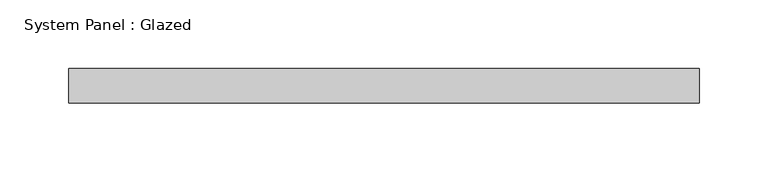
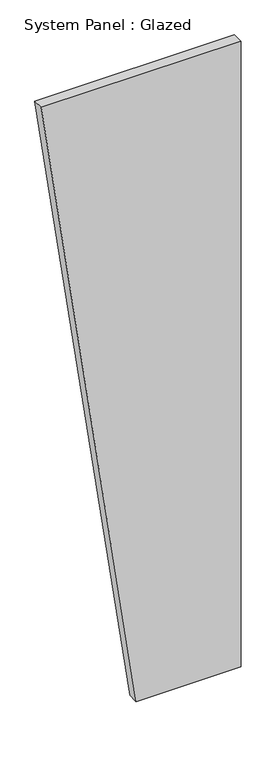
"""IFC4 building model written with IfcOpenShell, lengths in millimetres: plate geometry, System Panel : Glazed."""

from ifc_helpers import new_model, si_unit, frame, origin, place, context, project, spatial, polyline, outline, extrude, source, transform, mapped, element, save


def system_panel_glazed_acc2c7cf(model_context):
    return source(origin(), model_context, "Body", "SweptSolid", [
        extrude(outline(polyline([(0.0, -10.9640289), (0.0, 230.2446045), (1524.0, 230.2446045), (1524.0, -230.2446045), (0.0, -10.9640289)])), frame((0.0, 19.05, 0.0), z_axis=(0.0, 1.0, 0.0), x_axis=(0.0, 0.0, 1.0)), (0.0, 0.0, 1.0), 25.4),
    ])


if __name__ == "__main__":
    model = new_model("IFC4")
    model_context = context("Model", 3, world=origin())
    ifc_project = project(units=[si_unit("LENGTHUNIT", "METRE", prefix="MILLI")], contexts=[model_context])
    site = spatial("IfcSite", under=ifc_project)
    building = spatial("IfcBuilding", under=site)
    placement = place(None, origin())
    system_panel_glazed_shape = system_panel_glazed_acc2c7cf(model_context)
    element("IfcPlate", 1, ObjectType="System Panel : Glazed", at=placement, inside=building, context=model_context, shape_type="MappedRepresentation", body=[
        mapped(system_panel_glazed_shape, transform((0.0, 0.0, 0.0), x_axis=(1.0, 0.0, 0.0), y_axis=(0.0, 1.0, 0.0), z_axis=(0.0, 0.0, 1.0))),
    ])
    save(model, "model.ifc")
